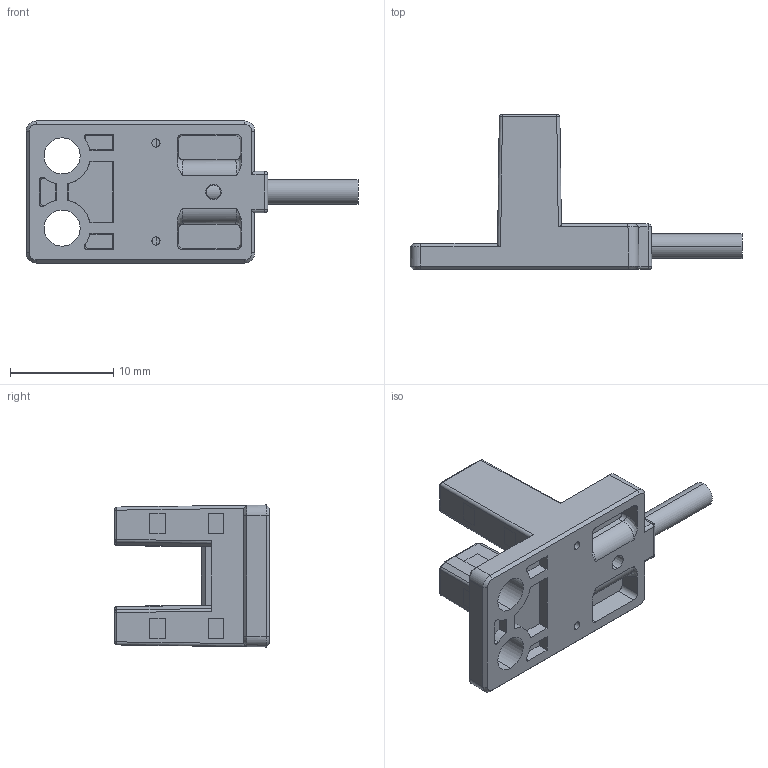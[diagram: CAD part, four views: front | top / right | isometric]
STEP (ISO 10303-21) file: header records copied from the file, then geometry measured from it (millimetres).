
FILE_DESCRIPTION((''),'2;1');
FILE_NAME('01_Y45_ASM_HSG_ASM','2024-05-30T10:10:34',('PC'),(''),'CREO PARAMETRIC BY PTC INC, 2020033','CREO PARAMETRIC BY PTC INC, 2020033','');
FILE_SCHEMA(('CONFIG_CONTROL_DESIGN','SHAPE_APPEARANCE_LAYERS_GROUPS'));
Length unit declared in the file: millimetre
Products named in the file (4): 011_Y45_CASE; 012_Y45_INSIDE; 013_WIRE_Y45; 01_Y45_ASM_HSG_ASM
Assembly tree (3 placements, depth 2):
  01_Y45_ASM_HSG_ASM
    011_Y45_CASE
    012_Y45_INSIDE
    013_WIRE_Y45
Bounding box: 32.2 x 15 x 13.78 mm (x, y, z)
Volume: 1426.1 mm3; surface area: 2717.6 mm2
Topology: 8 solids, 8 shells, 534 faces, 1452 edges, 938 vertices
Faces by surface type: plane 381, cylinder 111, bspline 36, sphere 4, cone 2
Entity records: 28074 total; most frequent: CARTESIAN_POINT 6719, ORIENTED_EDGE 2904, DIRECTION 2504, PRESENTATION_STYLE_ASSIGNMENT 1954, STYLED_ITEM 1950, CURVE_STYLE 1452, EDGE_CURVE 1452, VECTOR 1124
